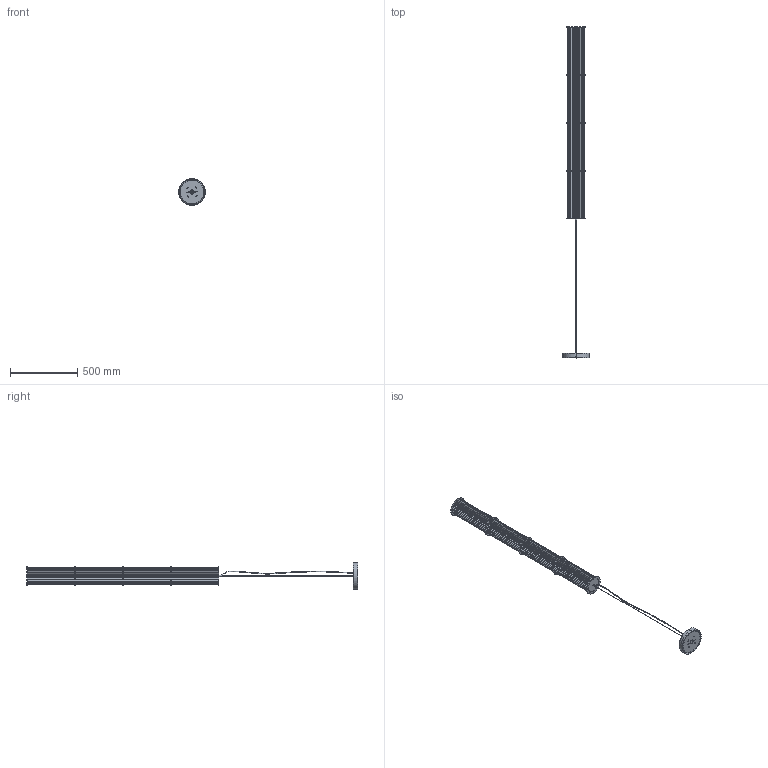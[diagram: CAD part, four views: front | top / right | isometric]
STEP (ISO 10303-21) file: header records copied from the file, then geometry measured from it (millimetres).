
FILE_DESCRIPTION (( 'STEP AP203' ), '1' );
FILE_NAME ('ORI_OR.S143.14_Suspensio 143cm (FORMA).STEP', '2025-07-08T07:53:21', ( '' ), ( '' ), 'SwSTEP 2.0', 'SolidWorks 2013', '' );
FILE_SCHEMA (( 'CONFIG_CONTROL_DESIGN' ));
Length unit declared in the file: millimetre
Products named in the file (13): GI111_Finalet Ø12x7_M10x1; GU023_CABLE ACER Ø1.5-bola Ø5 (BLACK); TP477_Pantalla plisada ORI (24 plecs); GU024 - SUSPENSOR M10 Cable Ø1.5 (BLACK); GI464-Disc Ø145x2_pas 101; MS050_Pasacable abierto Ø11xØ4_498070; GI463-Disc Ø145x2_pas 10; GI228_SUP. FIXACIÓ FLORÓ USA Ø200; GI471_Tija superior Ø12x50 ranura lat. M10x1_pasØ2; ORI_OR.S143.14_Suspensio 143cm (FORMA); AR109_Floró ø200x35 3T 2xM4 sistema USA (DOS FORATS); AG019_M4x8; KO219_Cable elèctric ORI suspensio
Assembly tree (19 placements, depth 2):
  ORI_OR.S143.14_Suspensio 143cm (FORMA)
    GI463-Disc Ø145x2_pas 10  x2
    GI111_Finalet Ø12x7_M10x1
    GI471_Tija superior Ø12x50 ranura lat. M10x1_pasØ2
    TP477_Pantalla plisada ORI (24 plecs)  x4
    KO219_Cable elèctric ORI suspensio
    GU023_CABLE ACER Ø1.5-bola Ø5 (BLACK)
    AR109_Floró ø200x35 3T 2xM4 sistema USA (DOS FORATS)
    GU024 - SUSPENSOR M10 Cable Ø1.5 (BLACK)
    MS050_Pasacable abierto Ø11xØ4_498070
    AG019_M4x8  x2
    GI464-Disc Ø145x2_pas 101  x3
    GI228_SUP. FIXACIÓ FLORÓ USA Ø200
Bounding box: 200 x 2472 x 204.5 mm (x, y, z)
Volume: 667637 mm3; surface area: 2085704.8 mm2
Topology: 19 solids, 19 shells, 1083 faces, 3064 edges, 2028 vertices
Faces by surface type: plane 633, cylinder 410, torus 24, cone 10, bspline 6
Entity records: 15011 total; most frequent: CARTESIAN_POINT 3024, DIRECTION 2266, ORIENTED_EDGE 2144, EDGE_CURVE 1072, AXIS2_PLACEMENT_3D 812, VERTEX_POINT 702, VECTOR 642, LINE 642
